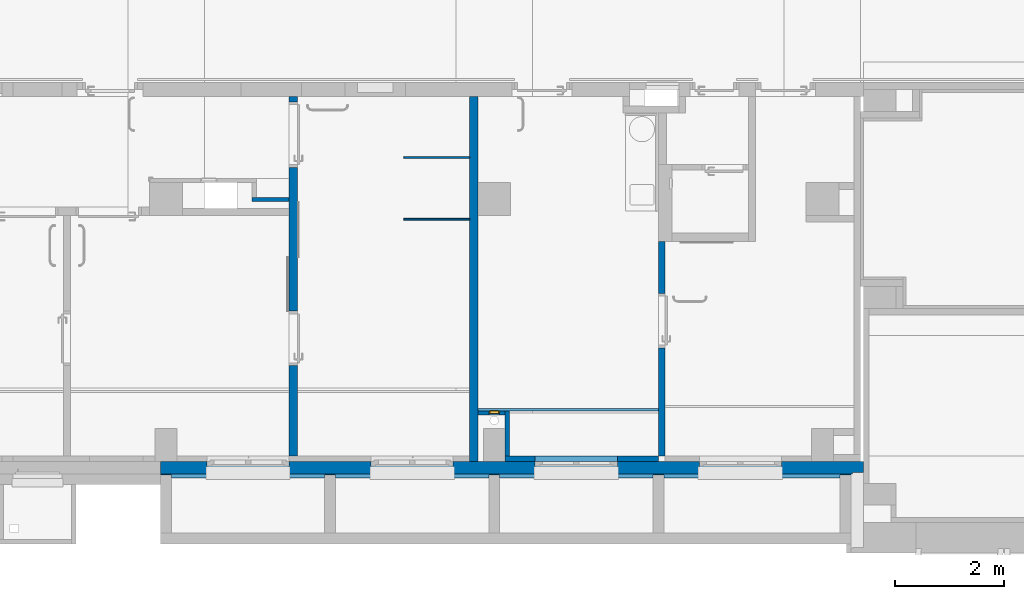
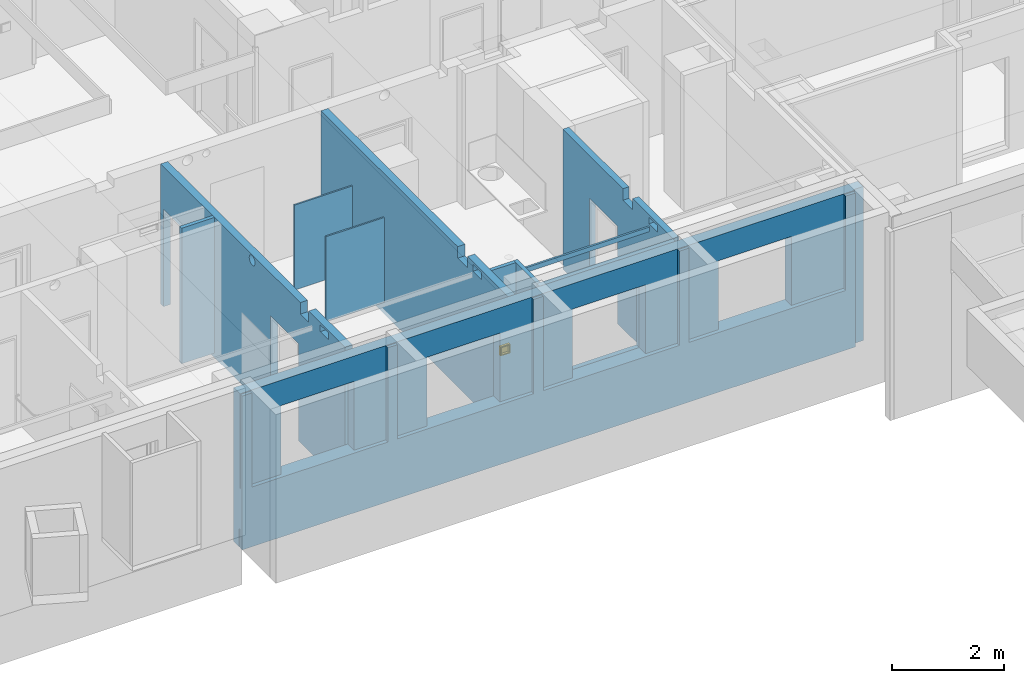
# One storey, part 13 of 84: 11 walls, 1 window, 16 openings.
"""IFC4 building model written with IfcOpenShell, lengths in metres."""

import ifcopenshell
import ifcopenshell.guid

model = None  # the IFC model being written
_history = None  # IfcOwnerHistory: only IFC2X3 demands one
_inside = {}  # id of a spatial element -> (the spatial element, [elements in it])
_under = {}  # id of a project, library or spatial element -> (it, [spatial elements below it])
_declared = {}  # id of a project -> (the project, [libraries it declares])
_typed = {}  # id of a type object -> (the type object, [elements of that type])
_made_of = {}  # id of a material, layer set ... -> (it, [elements and type objects made of it])


def new_model(schema):
    """Start an empty IFC model of exactly this schema.

    Asked for "IFC4X3", IfcOpenShell would pick the latest addendum, in which some entities
    have other attributes; the version numbers below select the first issue.
    IFC2X3 requires an IfcOwnerHistory on every rooted entity: one is made here for all.
    """
    global model, _history
    if schema == "IFC4X3":
        model = ifcopenshell.file(schema_version=(4, 3, 0, 0))
    else:
        model = ifcopenshell.file(schema=schema)
    _inside.clear()
    _under.clear()
    _declared.clear()
    _typed.clear()
    _made_of.clear()
    _history = None
    if model.schema == "IFC2X3":
        org = make("IfcOrganization", Name="unknown")
        user = make(
            "IfcPersonAndOrganization",
            ThePerson=make("IfcPerson", FamilyName="unknown"),
            TheOrganization=org,
        )
        app = make(
            "IfcApplication",
            ApplicationDeveloper=org,
            Version="unknown",
            ApplicationFullName="unknown",
            ApplicationIdentifier="unknown",
        )
        _history = make(
            "IfcOwnerHistory",
            OwningUser=user,
            OwningApplication=app,
            ChangeAction="ADDED",
            CreationDate=0,
        )
    return model


def make(cls, **values):
    """One entity of the class cls with the attributes given. An attribute that is None is left unset."""
    return model.create_entity(
        cls, **{name: value for name, value in values.items() if value is not None}
    )


def entity(cls, *values):
    """Any entity or typed value of the class cls, its attributes in the order of the schema. None: left unset."""
    e = model.create_entity(cls)
    for i, value in enumerate(values):
        if value is not None:
            e[i] = value
    return e


def rooted(cls, **values):
    """An entity with a GlobalId (a new one), such as an element, a storey or a relation."""
    return make(cls, GlobalId=ifcopenshell.guid.new(), OwnerHistory=_history, **values)


def si_unit(unit_type, name, prefix=None):
    """IfcSIUnit, for example si_unit("LENGTHUNIT", "METRE", prefix="MILLI")."""
    return make("IfcSIUnit", UnitType=unit_type, Prefix=prefix, Name=name)


def converted_unit(unit_type, name, factor, base, dimensions=None, offset=None):
    """IfcConversionBasedUnit, such as the inch: factor (a typed value) times the base unit."""
    return make(
        "IfcConversionBasedUnit"
        if offset is None
        else "IfcConversionBasedUnitWithOffset",
        ConversionOffset=offset,
        Dimensions=None
        if dimensions is None
        else entity("IfcDimensionalExponents", *dimensions),
        UnitType=unit_type,
        Name=name,
        ConversionFactor=make(
            "IfcMeasureWithUnit", ValueComponent=factor, UnitComponent=base
        ),
    )


def derived_unit(unit_type, elements):
    """IfcDerivedUnit: a product of units, each with its exponent."""
    return make(
        "IfcDerivedUnit",
        Elements=[
            make("IfcDerivedUnitElement", Unit=unit, Exponent=power)
            for unit, power in elements
        ],
        UnitType=unit_type,
    )


def assignment(units):
    """IfcUnitAssignment: the units of a project."""
    return None if units is None else make("IfcUnitAssignment", Units=units)


def point(xyz):
    """IfcCartesianPoint."""
    return None if xyz is None else make("IfcCartesianPoint", Coordinates=xyz)


def direction(xyz):
    """IfcDirection."""
    return None if xyz is None else make("IfcDirection", DirectionRatios=xyz)


def frame(location, z_axis=None, x_axis=None):
    """IfcAxis2Placement3D, a coordinate frame: its origin and axes. An axis left out is left unset."""
    return make(
        "IfcAxis2Placement3D",
        Location=point(location),
        Axis=direction(z_axis),
        RefDirection=direction(x_axis),
    )


def frame_2d(location, x_axis=None):
    """IfcAxis2Placement2D, a coordinate frame in the plane: its origin and x axis."""
    return make(
        "IfcAxis2Placement2D", Location=point(location), RefDirection=direction(x_axis)
    )


def origin():
    """The frame at (0, 0, 0) with its axes left unset."""
    return frame((0.0, 0.0, 0.0))


def origin_with_axes():
    """The frame at (0, 0, 0) with the z axis (0, 0, 1) and the x axis (1, 0, 0) written out."""
    return frame((0.0, 0.0, 0.0), z_axis=(0.0, 0.0, 1.0), x_axis=(1.0, 0.0, 0.0))


def place(relative_to, where):
    """IfcLocalPlacement: puts the frame where relative to a parent placement (None: the world)."""
    return make(
        "IfcLocalPlacement", PlacementRelTo=relative_to, RelativePlacement=where
    )


def context(
    kind, dimensions, precision=None, world=None, true_north=None, identifier=None
):
    """IfcGeometricRepresentationContext, for example the 3D "Model" context."""
    return make(
        "IfcGeometricRepresentationContext",
        ContextIdentifier=identifier,
        ContextType=kind,
        CoordinateSpaceDimension=dimensions,
        Precision=precision,
        WorldCoordinateSystem=world,
        TrueNorth=true_north,
    )


def subcontext(parent, identifier, kind, view, scale=None):
    """IfcGeometricRepresentationSubContext, for example "Body" below "Model"."""
    return make(
        "IfcGeometricRepresentationSubContext",
        ContextIdentifier=identifier,
        ContextType=kind,
        ParentContext=parent,
        TargetScale=scale,
        TargetView=view,
    )


def project(units=None, contexts=None):
    """IfcProject with its units and contexts."""
    return rooted(
        "IfcProject",
        Name="project",
        RepresentationContexts=contexts,
        UnitsInContext=assignment(units),
    )


def spatial(cls, under=None, at=None, **own):
    """A site, building, storey or space (cls), placed at a placement, below another one or the project."""
    s = rooted(cls, ObjectPlacement=at, **own)
    if under is not None:
        _under.setdefault(under.id(), (under, []))[1].append(s)
    return s


def polyline(points):
    """IfcPolyline through the points."""
    return make("IfcPolyline", Points=[point(p) for p in points])


def profile(cls, at=None, kind="AREA", **sizes):
    """A parametric profile (cls). Its sizes go by their IFC names, for example OverallWidth=200.0."""
    return make(cls, ProfileType=kind, Position=at, **sizes)


def rectangle(**sizes):
    """IfcRectangleProfileDef."""
    return profile("IfcRectangleProfileDef", **sizes)


def outline(outer, holes=None, kind="AREA"):
    """IfcArbitraryClosedProfileDef: a profile drawn as a closed curve; with holes, ...WithVoids."""
    if holes is None:
        return make("IfcArbitraryClosedProfileDef", ProfileType=kind, OuterCurve=outer)
    return make(
        "IfcArbitraryProfileDefWithVoids",
        ProfileType=kind,
        OuterCurve=outer,
        InnerCurves=holes,
    )


def extrude(swept, where, along, depth):
    """IfcExtrudedAreaSolid: the profile swept, set in the frame where, extruded along a direction by depth."""
    return make(
        "IfcExtrudedAreaSolid",
        SweptArea=swept,
        Position=where,
        ExtrudedDirection=direction(along),
        Depth=depth,
    )


def clip(a, b, op="DIFFERENCE"):
    """IfcBooleanClippingResult: the solid a cut by the half space b."""
    return make(
        "IfcBooleanClippingResult", Operator=op, FirstOperand=a, SecondOperand=b
    )


def bounded_halfspace(plane, agree, where, boundary):
    """IfcPolygonalBoundedHalfSpace: a half space limited to a polygon's prism."""
    return make(
        "IfcPolygonalBoundedHalfSpace",
        BaseSurface=make("IfcPlane", Position=plane),
        AgreementFlag=agree,
        Position=where,
        PolygonalBoundary=boundary,
    )


def faces_of(points, faces, orient=None, outer=None):
    """IfcFace entities. A face is a list of loops; a loop is a list of indices into points, from 0.

    orient and outer hold one flag for each loop. By default every Orientation is true, the
    first loop of a face is its IfcFaceOuterBound and the others are IfcFaceBound.
    """
    made = []
    for i, loops in enumerate(faces):
        bounds = []
        for j, loop in enumerate(loops):
            is_outer = j == 0 if outer is None else outer[i][j]
            bounds.append(
                make(
                    "IfcFaceOuterBound" if is_outer else "IfcFaceBound",
                    Bound=make("IfcPolyLoop", Polygon=[points[k] for k in loop]),
                    Orientation=True if orient is None else orient[i][j],
                )
            )
        made.append(make("IfcFace", Bounds=bounds))
    return made


def faceted_brep(points, faces, orient=None, outer=None, voids=None):
    """IfcFacetedBrep: a solid bounded by flat faces; with voids (closed shells), ...WithVoids."""
    shared = [point(p) for p in points]
    hull = make("IfcClosedShell", CfsFaces=faces_of(shared, faces, orient, outer))
    if voids is None:
        return make("IfcFacetedBrep", Outer=hull)
    return make(
        "IfcFacetedBrepWithVoids",
        Outer=hull,
        Voids=[
            make(cls, CfsFaces=faces_of(shared, fs, o, b)) for cls, fs, o, b in voids
        ],
    )


def shape(context_of_items, identifier, shape_type, items):
    """IfcShapeRepresentation: the items that make up one representation, for example the "Body"."""
    return make(
        "IfcShapeRepresentation",
        ContextOfItems=context_of_items,
        RepresentationIdentifier=identifier,
        RepresentationType=shape_type,
        Items=items,
    )


def source(mapping_origin, context_of_items, identifier, shape_type, items):
    """IfcRepresentationMap: a shape defined once, which mapped items show again and again."""
    return make(
        "IfcRepresentationMap",
        MappingOrigin=mapping_origin,
        MappedRepresentation=shape(context_of_items, identifier, shape_type, items),
    )


def transform(
    local_origin,
    x_axis=None,
    y_axis=None,
    z_axis=None,
    scale=None,
    scale2=None,
    scale3=None,
    uniform=True,
):
    """IfcCartesianTransformationOperator3D, or its non-uniform kind. x_axis, y_axis, z_axis: its Axis1, 2, 3."""
    if uniform:
        return make(
            "IfcCartesianTransformationOperator3D",
            Axis1=direction(x_axis),
            Axis2=direction(y_axis),
            LocalOrigin=point(local_origin),
            Scale=scale,
            Axis3=direction(z_axis),
        )
    return make(
        "IfcCartesianTransformationOperator3DnonUniform",
        Axis1=direction(x_axis),
        Axis2=direction(y_axis),
        LocalOrigin=point(local_origin),
        Scale=scale,
        Axis3=direction(z_axis),
        Scale2=scale2,
        Scale3=scale3,
    )


def mapped(mapping_source, mapping_target):
    """IfcMappedItem: shows the shape of a source again, moved by a transform."""
    return make(
        "IfcMappedItem", MappingSource=mapping_source, MappingTarget=mapping_target
    )


def material(Name=None, Category=None):
    """IfcMaterial."""
    return make("IfcMaterial", Name=Name, Category=Category)


def layer(
    of_material, thickness, ventilated=None, Name=None, Category=None, Priority=None
):
    """IfcMaterialLayer: one layer of a wall or slab, of a material (None: an air gap)."""
    return make(
        "IfcMaterialLayer",
        Material=of_material,
        LayerThickness=thickness,
        IsVentilated=ventilated,
        Name=Name,
        Category=Category,
        Priority=Priority,
    )


def layer_set(layers, Name=None):
    """IfcMaterialLayerSet."""
    return make("IfcMaterialLayerSet", MaterialLayers=layers, LayerSetName=Name)


def layer_usage(for_layer_set, set_direction, sense, offset, extent=None):
    """IfcMaterialLayerSetUsage: how a layer set lies in its element."""
    return make(
        "IfcMaterialLayerSetUsage",
        ForLayerSet=for_layer_set,
        LayerSetDirection=set_direction,
        DirectionSense=sense,
        OffsetFromReferenceLine=offset,
        ReferenceExtent=extent,
    )


def made_of(thing, what):
    """Note that an element or type object is made of a material, layer set ...; save() writes the relation."""
    if what is not None:
        _made_of.setdefault(what.id(), (what, []))[1].append(thing)
    return thing


def element(
    cls,
    number,
    at=None,
    inside=None,
    cuts=None,
    type_object=None,
    material=None,
    context=None,
    identifier="Body",
    shape_type=None,
    held_by="IfcProductDefinitionShape",
    body=None,
    shapes=None,
    **own,
):
    """One element of the class cls, such as IfcWall. Its Tag is "e" and its number.

    at: its placement. inside: the storey or other place that contains it. cuts: it is an
    opening in that element (IfcRelVoidsElement). A single representation is given by context,
    identifier, shape_type and body (its items); several are given by shapes. held_by: the class
    of the entity that holds the representations. save() writes the other relations.
    """
    e = rooted(cls, Tag="e%d" % number, ObjectPlacement=at, **own)
    if body is not None:
        shapes = [shape(context, identifier, shape_type, body)]
    if shapes is not None:
        e.Representation = make(held_by, Representations=shapes)
    if inside is not None:
        _inside.setdefault(inside.id(), (inside, []))[1].append(e)
    if cuts is not None:
        rooted(
            "IfcRelVoidsElement", RelatingBuildingElement=cuts, RelatedOpeningElement=e
        )
    if type_object is not None:
        _typed.setdefault(type_object.id(), (type_object, []))[1].append(e)
    return made_of(e, material)


def fill(opening, filler):
    """IfcRelFillsElement: the door or window that sits in an opening."""
    return rooted(
        "IfcRelFillsElement",
        RelatingOpeningElement=opening,
        RelatedBuildingElement=filler,
    )


def aggregate(whole, parts):
    """IfcRelAggregates: a whole, such as a stair, and the parts it consists of."""
    return rooted("IfcRelAggregates", RelatingObject=whole, RelatedObjects=parts)


def save(model, path):
    """Write the relations noted so far, then the file.

    IfcRelAggregates (storeys below a building ...), IfcRelContainedInSpatialStructure (elements
    in a storey), IfcRelDefinesByType, IfcRelAssociatesMaterial and IfcRelDeclares: one each for
    every whole, place, type object, material and project.
    """
    for whole, parts in _under.values():
        aggregate(whole, parts)
    for where, things in _inside.values():
        rooted(
            "IfcRelContainedInSpatialStructure",
            RelatedElements=things,
            RelatingStructure=where,
        )
    for kind, things in _typed.values():
        rooted("IfcRelDefinesByType", RelatedObjects=things, RelatingType=kind)
    for what, things in _made_of.values():
        rooted("IfcRelAssociatesMaterial", RelatedObjects=things, RelatingMaterial=what)
    for by, libraries in _declared.values():
        rooted("IfcRelDeclares", RelatingContext=by, RelatedDefinitions=libraries)
    model.write(path)


model = new_model("IFC4")

# Units and contexts
model_context = context("Model", 3, precision=1e-05, world=origin())
body_context = subcontext(model_context, "Body", "Model", "MODEL_VIEW")
ifc_project = project(units=[si_unit("LENGTHUNIT", "METRE"), si_unit("AREAUNIT", "SQUARE_METRE"), si_unit("VOLUMEUNIT", "CUBIC_METRE"), si_unit("MASSUNIT", "GRAM", prefix="KILO"), converted_unit("PLANEANGLEUNIT", "DEGREE", entity("IfcPlaneAngleMeasure", 0.0174532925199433), si_unit("PLANEANGLEUNIT", "RADIAN"), dimensions=[0, 0, 0, 0, 0, 0, 0]), derived_unit("THERMALTRANSMITTANCEUNIT", [(si_unit("POWERUNIT", "WATT"), 1), (si_unit("THERMODYNAMICTEMPERATUREUNIT", "KELVIN"), -1), (si_unit("LENGTHUNIT", "METRE"), -2)]), derived_unit("VOLUMETRICFLOWRATEUNIT", [(si_unit("LENGTHUNIT", "METRE"), 3), (converted_unit("TIMEUNIT", "hour", entity("IfcTimeMeasure", 3600.0), si_unit("TIMEUNIT", "SECOND"), dimensions=[0, 0, 1, 0, 0, 0, 0]), -1), (si_unit("LENGTHUNIT", "METRE"), -1)])], contexts=[model_context])

# Site, building, storey
site_placement = place(None, origin())
site = spatial("IfcSite", under=ifc_project, at=site_placement, Name="3. ASŘ", CompositionType="ELEMENT")
building_placement = place(site_placement, origin())
building = spatial("IfcBuilding", under=site, at=building_placement, Name="Pavilon C", CompositionType="ELEMENT")
storey_placement = place(building_placement, frame((0.0, 0.0, -3.3)))
storey = spatial("IfcBuildingStorey", under=building, at=storey_placement, Name="Půdorys 1.PP", CompositionType="ELEMENT", Elevation=-3.3)

# Wall, openings
ifc_material_1 = material(Name="ZELEZOBETONOVÁ KCE")
ifc_layer_1 = layer(ifc_material_1, 0.2)
ifc_material_2 = material(Name="LIGNOPOR")
ifc_layer_2 = layer(ifc_material_2, 0.0250000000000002)
ifc_material_3 = material(Name="PÓROBETONOVÉ ZDIVO")
ifc_layer_3 = layer(ifc_material_3, 0.0800000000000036)
ifc_layer_set_1 = layer_set([ifc_layer_1, ifc_layer_2, ifc_layer_3])
ifc_layer_usage_1 = layer_usage(ifc_layer_set_1, "AXIS2", "POSITIVE", 0.0)
wall_1_placement = place(storey_placement, frame((24.75, 0.599999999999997, -0.4), z_axis=(0.0, 0.0, 1.0), x_axis=(-1.0, 2.83111191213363e-16, 0.0)))
wall_1 = element("IfcWall", 1, at=wall_1_placement, inside=storey, material=ifc_layer_usage_1, Name="ZELEZOBETONOVÁ KCE", context=body_context, shape_type="Clipping", body=[
    clip(clip(extrude(outline(polyline([(-12.625, -3.57427878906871e-15), (-12.625, -0.0800000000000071), (-12.65, -0.0800000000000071), (-12.65, -0.105000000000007), (-12.85, -0.105000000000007), (-12.85, -0.305000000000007), (8.63489133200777e-17, -0.305000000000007), (1.01385950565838e-30, -3.5811353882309e-15), (-12.625, -3.57427878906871e-15)])), frame((12.85, 0.305000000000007, 0.0), z_axis=(0.0, 0.0, 1.0), x_axis=(1.0, 0.0, 0.0)), (0.0, 0.0, 1.0), 3.35), bounded_halfspace(frame((5.265, 0.215, 0.4), z_axis=(0.0, 0.0, 1.0), x_axis=(-1.0, -2.83111191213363e-16, 0.0)), True, origin_with_axes(), polyline([(0.225, 0.225), (0.2, 0.225), (0.2, 0.2), (12.85, 0.2), (12.85, 0.225), (0.225, 0.225)]))), bounded_halfspace(frame((6.66500000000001, 0.267000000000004, 1.3), z_axis=(0.0, 0.0, -1.0), x_axis=(-2.83111191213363e-16, 1.0, 0.0)), True, origin_with_axes(), polyline([(12.65, 0.245000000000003), (12.65, 0.305000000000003), (9.85, 0.305000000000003), (9.85, 0.245000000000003), (9.65000000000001, 0.245000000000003), (9.65000000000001, 0.305000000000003), (6.85, 0.305000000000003), (6.85, 0.245000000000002), (6.65, 0.245000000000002), (6.65, 0.305000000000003), (3.85, 0.305000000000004), (3.85, 0.245000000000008), (3.65, 0.245000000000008), (3.65, 0.305000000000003), (0.425, 0.305000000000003), (0.425, 0.245000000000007), (0.225, 0.245000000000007), (0.225, 0.225), (12.85, 0.225), (12.85, 0.245000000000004), (12.65, 0.245000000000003)]))),
])
opening_1_placement = place(wall_1_placement, frame((3.0, 0.2, 1.3), z_axis=(0.0, -1.0, 0.0), x_axis=(0.0, 0.0, 1.0)))
element("IfcOpeningElement", 2, at=opening_1_placement, cuts=wall_1, Name="Okenní otvor", ObjectType="Opening", context=body_context, shape_type="SweptSolid", body=[
    extrude(outline(polyline([(0.0, 1.5), (1.5, 1.5), (1.5, 0.0), (0.0, 0.0), (0.0, 1.5)])), origin_with_axes(), (0.0, 0.0, 1.0), 0.2),
    extrude(outline(polyline([(0.0, 1.5), (1.5, 1.5), (1.5, 0.0), (0.0, 0.0), (0.0, 1.5)])), frame((0.0, 7.57912251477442e-18, -0.0250000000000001), z_axis=(0.0, 0.0, 1.0), x_axis=(1.0, 0.0, 0.0)), (0.0, 0.0, 1.0), 0.0250000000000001),
    extrude(outline(polyline([(0.0, 1.5), (1.5, 1.5), (1.5, 0.0), (0.0, 0.0), (0.0, 1.5)])), frame((0.0, 3.18323145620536e-17, -0.105000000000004), z_axis=(0.0, 0.0, 1.0), x_axis=(1.0, 0.0, 0.0)), (0.0, 0.0, 1.0), 0.0800000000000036),
])
opening_2_placement = place(wall_1_placement, frame((6.0, 0.200000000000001, 1.3), z_axis=(0.0, -1.0, 0.0), x_axis=(0.0, 0.0, 1.0)))
element("IfcOpeningElement", 3, at=opening_2_placement, cuts=wall_1, Name="Okenní otvor", ObjectType="Opening", context=body_context, shape_type="SweptSolid", body=[
    extrude(outline(polyline([(0.0, 1.5), (1.5, 1.5), (1.5, 0.0), (0.0, 0.0), (0.0, 1.5)])), origin_with_axes(), (0.0, 0.0, 1.0), 0.2),
    extrude(outline(polyline([(0.0, 1.5), (1.5, 1.5), (1.5, 0.0), (0.0, 0.0), (0.0, 1.5)])), frame((0.0, 7.57912251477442e-18, -0.0250000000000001), z_axis=(0.0, 0.0, 1.0), x_axis=(1.0, 0.0, 0.0)), (0.0, 0.0, 1.0), 0.0250000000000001),
    extrude(outline(polyline([(0.0, 1.5), (1.5, 1.5), (1.5, 0.0), (0.0, 0.0), (0.0, 1.5)])), frame((0.0, 3.18323145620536e-17, -0.105000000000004), z_axis=(0.0, 0.0, 1.0), x_axis=(1.0, 0.0, 0.0)), (0.0, 0.0, 1.0), 0.0800000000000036),
])
opening_3_placement = place(wall_1_placement, frame((9.0, 0.200000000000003, 1.3), z_axis=(0.0, -1.0, 0.0), x_axis=(0.0, 0.0, 1.0)))
element("IfcOpeningElement", 4, at=opening_3_placement, cuts=wall_1, Name="Okenní otvor", ObjectType="Opening", context=body_context, shape_type="SweptSolid", body=[
    extrude(outline(polyline([(0.0, 1.5), (1.5, 1.5), (1.5, 0.0), (0.0, 0.0), (0.0, 1.5)])), origin_with_axes(), (0.0, 0.0, 1.0), 0.2),
    extrude(outline(polyline([(0.0, 1.5), (1.5, 1.5), (1.5, 0.0), (0.0, 0.0), (0.0, 1.5)])), frame((0.0, 7.57912251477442e-18, -0.0250000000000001), z_axis=(0.0, 0.0, 1.0), x_axis=(1.0, 0.0, 0.0)), (0.0, 0.0, 1.0), 0.0250000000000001),
    extrude(outline(polyline([(0.0, 1.5), (1.5, 1.5), (1.5, 0.0), (0.0, 0.0), (0.0, 1.5)])), frame((0.0, 3.18323145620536e-17, -0.105000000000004), z_axis=(0.0, 0.0, 1.0), x_axis=(1.0, 0.0, 0.0)), (0.0, 0.0, 1.0), 0.0800000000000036),
])
opening_4_placement = place(wall_1_placement, frame((12.0, 0.199999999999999, 1.3), z_axis=(0.0, -1.0, 0.0), x_axis=(0.0, 0.0, 1.0)))
element("IfcOpeningElement", 5, at=opening_4_placement, cuts=wall_1, Name="Okenní otvor", ObjectType="Opening", context=body_context, shape_type="SweptSolid", body=[
    extrude(outline(polyline([(0.0, 1.5), (1.5, 1.5), (1.5, 0.0), (0.0, 0.0), (0.0, 1.5)])), origin_with_axes(), (0.0, 0.0, 1.0), 0.2),
    extrude(outline(polyline([(0.0, 1.5), (1.5, 1.5), (1.5, 0.0), (0.0, 0.0), (0.0, 1.5)])), frame((0.0, 7.57912251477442e-18, -0.0250000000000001), z_axis=(0.0, 0.0, 1.0), x_axis=(1.0, 0.0, 0.0)), (0.0, 0.0, 1.0), 0.0250000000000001),
    extrude(outline(polyline([(0.0, 1.5), (1.5, 1.5), (1.5, 0.0), (0.0, 0.0), (0.0, 1.5)])), frame((0.0, 3.18323145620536e-17, -0.105000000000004), z_axis=(0.0, 0.0, 1.0), x_axis=(1.0, 0.0, 0.0)), (0.0, 0.0, 1.0), 0.0800000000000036),
])

# Wall, opening
ifc_material_4 = material(Name="PÓROBETONOVÉ ZDIVO")
ifc_layer_4 = layer(ifc_material_4, 0.1)
ifc_layer_set_2 = layer_set([ifc_layer_4])
ifc_layer_usage_2 = layer_usage(ifc_layer_set_2, "AXIS2", "POSITIVE", 0.0)
wall_2_placement = place(storey_placement, frame((18.2, 0.6, -0.1)))
wall_2 = element("IfcWall", 6, at=wall_2_placement, inside=storey, material=ifc_layer_usage_2, Name="PÓROBETONOVÉ ZDIVO", context=body_context, shape_type="SweptSolid", body=[
    extrude(rectangle(XDim=2.8, YDim=0.1, at=frame_2d((1.4, 0.05), x_axis=(1.0, 0.0))), origin_with_axes(), (0.0, 0.0, 1.0), 3.05),
])
opening_5_placement = place(wall_2_placement, frame((2.05, 0.1, 1.0), z_axis=(0.0, -1.0, 0.0), x_axis=(0.0, 0.0, 1.0)))
element("IfcOpeningElement", 7, at=opening_5_placement, cuts=wall_2, Name="Okenní otvor", ObjectType="Opening", context=body_context, shape_type="SweptSolid", body=[
    extrude(outline(polyline([(0.0, 1.5), (1.5, 1.5), (1.5, 0.0), (0.0, 0.0), (0.0, 1.5)])), origin_with_axes(), (0.0, 0.0, 1.0), 0.1),
])

# Walls
ifc_material_5 = material()
ifc_layer_5 = layer(ifc_material_5, 0.032)
ifc_layer_set_3 = layer_set([ifc_layer_5])
ifc_layer_usage_3 = layer_usage(ifc_layer_set_3, "AXIS2", "POSITIVE", -0.016)
wall_3_placement = place(storey_placement, frame((17.55, 6.175, 0.15), z_axis=(0.0, 0.0, 1.0), x_axis=(-1.0, 0.0, 0.0)))
element("IfcWall", 8, at=wall_3_placement, inside=storey, material=ifc_layer_usage_3, Name="SANITÁRNÍ PŘÍČKA", context=body_context, shape_type="SweptSolid", body=[
    extrude(rectangle(XDim=1.2, YDim=0.032, at=frame_2d((0.6, 0.016), x_axis=(1.0, 0.0))), origin_with_axes(), (0.0, 0.0, 1.0), 1.85),
])
ifc_material_6 = material()
ifc_layer_6 = layer(ifc_material_6, 0.032)
ifc_layer_set_4 = layer_set([ifc_layer_6])
ifc_layer_usage_4 = layer_usage(ifc_layer_set_4, "AXIS2", "POSITIVE", -0.016)
wall_4_placement = place(storey_placement, frame((17.55, 5.043, 0.15), z_axis=(0.0, 0.0, 1.0), x_axis=(-1.0, 0.0, 0.0)))
element("IfcWall", 9, at=wall_4_placement, inside=storey, material=ifc_layer_usage_4, Name="SANITÁRNÍ PŘÍČKA", context=body_context, shape_type="SweptSolid", body=[
    extrude(rectangle(XDim=1.2, YDim=0.032, at=frame_2d((0.6, 0.016), x_axis=(1.0, 0.0))), origin_with_axes(), (0.0, 0.0, 1.0), 1.85),
])
ifc_material_7 = material(Name="SDK SVISLA CAST PODHLEDU")
ifc_layer_7 = layer(ifc_material_7, 0.0400000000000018)
ifc_layer_set_5 = layer_set([ifc_layer_7])
ifc_layer_usage_5 = layer_usage(ifc_layer_set_5, "AXIS2", "POSITIVE", 0.0)
wall_5_placement = place(storey_placement, frame((17.7, 1.525, 2.6)))
element("IfcWall", 10, at=wall_5_placement, inside=storey, material=ifc_layer_usage_5, Name="SDK SVISLA CAST PODHLEDU", context=body_context, shape_type="SweptSolid", body=[
    extrude(rectangle(XDim=3.3, YDim=0.0400000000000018, at=frame_2d((1.65, 0.0200000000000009), x_axis=(1.0, 0.0))), origin_with_axes(), (0.0, 0.0, 1.0), 0.1),
])

# Wall, openings
ifc_material_8 = material(Name="SDK BARYT - 1 KCE + DVOJITÉ OPLÁ")
ifc_layer_8 = layer(ifc_material_8, 0.15)
ifc_layer_set_6 = layer_set([ifc_layer_8])
ifc_layer_usage_6 = layer_usage(ifc_layer_set_6, "AXIS2", "POSITIVE", 0.0)
wall_6_placement = place(storey_placement, frame((14.25, 7.275, -0.1), z_axis=(0.0, 0.0, 1.0), x_axis=(0.0, -1.0, 0.0)))
wall_6 = element("IfcWall", 11, at=wall_6_placement, inside=storey, material=ifc_layer_usage_6, Name="SDK BARYT - 1 KCE + DVOJITÉ OPLÁ", context=body_context, shape_type="SweptSolid", body=[
    extrude(rectangle(XDim=6.575, YDim=0.15, at=frame_2d((3.2875, 0.075), x_axis=(1.0, 0.0))), origin_with_axes(), (0.0, 0.0, 1.0), 3.05),
])
opening_6_placement = place(wall_6_placement, frame((3.925, 0.0, 0.0), z_axis=(0.0, 1.0, 0.0), x_axis=(0.0, 0.0, 1.0)))
element("IfcOpeningElement", 12, at=opening_6_placement, cuts=wall_6, Name="Dveřní otvor", ObjectType="Opening", context=body_context, shape_type="SweptSolid", body=[
    extrude(outline(polyline([(0.0, 1.0), (2.12, 1.0), (2.12, 0.0), (0.0, 0.0), (0.0, 1.0)])), origin_with_axes(), (0.0, 0.0, 1.0), 0.15),
])
opening_7_placement = place(wall_6_placement, frame((0.1, 0.0, 0.0), z_axis=(0.0, 1.0, 0.0), x_axis=(0.0, 0.0, 1.0)))
element("IfcOpeningElement", 13, at=opening_7_placement, cuts=wall_6, Name="Dveřní otvor", ObjectType="Opening", context=body_context, shape_type="SweptSolid", body=[
    extrude(outline(polyline([(0.0, 1.2), (2.12, 1.2), (2.12, 0.0), (0.0, 0.0), (0.0, 1.2)])), origin_with_axes(), (0.0, 0.0, 1.0), 0.15),
])
opening_8_placement = place(wall_6_placement, frame((5.69218911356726, 0.0, 2.85), z_axis=(0.0, 1.0, 0.0), x_axis=(0.0, 0.0, 1.0)))
element("IfcOpeningElement", 14, at=opening_8_placement, cuts=wall_6, Name="UT", ObjectType="Opening", context=body_context, shape_type="SweptSolid", body=[
    extrude(outline(polyline([(0.0, 0.3), (0.15, 0.3), (0.15, 0.0), (0.0, 0.0), (0.0, 0.3)])), origin_with_axes(), (0.0, 0.0, 1.0), 0.15),
])
opening_9_placement = place(wall_6_placement, frame((4.98218911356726, 0.0, 2.8), z_axis=(0.0, 1.0, 0.0), x_axis=(0.0, 0.0, 1.0)))
element("IfcOpeningElement", 15, at=opening_9_placement, cuts=wall_6, Name="VZT", ObjectType="Opening", context=body_context, shape_type="SweptSolid", body=[
    extrude(outline(polyline([(0.0, 0.3), (0.25, 0.3), (0.25, 0.0), (0.0, 0.0), (0.0, 0.3)])), origin_with_axes(), (0.0, 0.0, 1.0), 0.15),
])
opening_10_placement = place(wall_6_placement, frame((3.37083752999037, 0.15, 2.825), z_axis=(0.0, -1.0, 0.0), x_axis=(0.0, 0.0, 1.0)))
element("IfcOpeningElement", 16, at=opening_10_placement, cuts=wall_6, Name="VZT", ObjectType="Opening", context=body_context, shape_type="SweptSolid", body=[
    extrude(outline(polyline([(0.105, 0.0), (0.0940245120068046, 0.000575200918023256), (0.0831692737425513, 0.00229450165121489), (0.0725532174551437, 0.00513906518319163), (0.0622926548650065, 0.0090777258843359), (0.052500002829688, 0.0140673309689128), (0.04328255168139, 0.0200532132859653), (0.0347412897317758, 0.0269697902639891), (0.0269697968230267, 0.0347412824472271), (0.0200532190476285, 0.043282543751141), (0.0140673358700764, 0.0524999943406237), (0.00907772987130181, 0.0622926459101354), (0.00513906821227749, 0.0725532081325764), (0.00229450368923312, 0.0831692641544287), (0.000575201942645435, 0.0940245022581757), (0.0, 0.104999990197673), (0.00057519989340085, 0.115975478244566), (0.00229449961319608, 0.126830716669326), (0.00513906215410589, 0.137446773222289), (0.00907772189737, 0.147707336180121), (0.0140673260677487, 0.157499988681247), (0.0200532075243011, 0.166717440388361), (0.0269697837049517, 0.175258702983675), (0.0347412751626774, 0.183030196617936), (0.0432825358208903, 0.189946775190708), (0.052499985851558, 0.19593265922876), (0.0622926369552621, 0.200922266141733), (0.0725531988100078, 0.204860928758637), (0.0831692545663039, 0.207705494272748), (0.0940244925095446, 0.209424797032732), (0.104999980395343, 0.21), (0.115975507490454, 0.209424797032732), (0.126830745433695, 0.207705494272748), (0.137446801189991, 0.204860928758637), (0.147707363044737, 0.200922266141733), (0.157500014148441, 0.19593265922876), (0.166717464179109, 0.189946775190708), (0.175258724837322, 0.183030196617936), (0.183030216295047, 0.175258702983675), (0.189946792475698, 0.166717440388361), (0.19593267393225, 0.157499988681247), (0.200922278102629, 0.147707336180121), (0.204860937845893, 0.137446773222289), (0.207705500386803, 0.126830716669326), (0.209424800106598, 0.115975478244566), (0.209999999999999, 0.104999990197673), (0.209424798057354, 0.0940245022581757), (0.207705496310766, 0.0831692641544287), (0.204860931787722, 0.0725532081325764), (0.200922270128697, 0.0622926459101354), (0.195932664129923, 0.0524999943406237), (0.18994678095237, 0.043282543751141), (0.183030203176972, 0.0347412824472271), (0.175258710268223, 0.0269697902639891), (0.166717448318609, 0.0200532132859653), (0.157499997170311, 0.0140673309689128), (0.147707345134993, 0.0090777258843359), (0.137446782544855, 0.00513906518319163), (0.126830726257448, 0.00229450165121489), (0.115975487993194, 0.000575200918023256), (0.105, 0.0)])), origin_with_axes(), (0.0, 0.0, 1.0), 0.15),
])

ifc_material_9 = material(Name="SDK BARYT - 1 KCE + DVOJITÉ OPLÁ")
ifc_layer_9 = layer(ifc_material_9, 0.15)
ifc_layer_set_7 = layer_set([ifc_layer_9])
ifc_layer_usage_7 = layer_usage(ifc_layer_set_7, "AXIS2", "POSITIVE", 0.0)
wall_7_placement = place(storey_placement, frame((17.7, 0.599999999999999, -0.1), z_axis=(0.0, 0.0, 1.0), x_axis=(0.0, 1.0, 0.0)))
wall_7 = element("IfcWall", 17, at=wall_7_placement, inside=storey, material=ifc_layer_usage_7, Name="SDK BARYT - 1 KCE + DVOJITÉ OPLÁ", context=body_context, shape_type="SweptSolid", body=[
    extrude(rectangle(XDim=6.675, YDim=0.15, at=frame_2d((3.3375, 0.075), x_axis=(1.0, 0.0))), origin_with_axes(), (0.0, 0.0, 1.0), 3.05),
])
opening_11_placement = place(wall_7_placement, frame((1.24681088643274, 0.15, 2.85), z_axis=(0.0, -1.0, 0.0), x_axis=(0.0, 0.0, 1.0)))
element("IfcOpeningElement", 18, at=opening_11_placement, cuts=wall_7, Name="UT", ObjectType="Opening", context=body_context, shape_type="SweptSolid", body=[
    extrude(outline(polyline([(0.0, 0.3), (0.15, 0.3), (0.15, 0.0), (0.0, 0.0), (0.0, 0.3)])), origin_with_axes(), (0.0, 0.0, 1.0), 0.15),
])
opening_12_placement = place(wall_7_placement, frame((1.79581088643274, 0.15, 2.8), z_axis=(0.0, -1.0, 0.0), x_axis=(0.0, 0.0, 1.0)))
element("IfcOpeningElement", 19, at=opening_12_placement, cuts=wall_7, Name="VZT", ObjectType="Opening", context=body_context, shape_type="SweptSolid", body=[
    extrude(outline(polyline([(0.0, 0.35), (0.25, 0.35), (0.25, 0.0), (0.0, 0.0), (0.0, 0.35)])), origin_with_axes(), (0.0, 0.0, 1.0), 0.15),
])

ifc_material_10 = material(Name="SDK - 1 KCE + DVOJITÉ OPLÁŠTĚNÍ")
ifc_layer_10 = layer(ifc_material_10, 0.125)
ifc_layer_set_8 = layer_set([ifc_layer_10])
ifc_layer_usage_8 = layer_usage(ifc_layer_set_8, "AXIS2", "POSITIVE", 0.0)
wall_8_placement = place(storey_placement, frame((21.125, 0.7, -0.1), z_axis=(0.0, 0.0, 1.0), x_axis=(0.0, 1.0, 0.0)))
wall_8 = element("IfcWall", 20, at=wall_8_placement, inside=storey, material=ifc_layer_usage_8, Name="SDK - 1 KCE + DVOJITÉ OPLÁŠTĚNÍ", context=body_context, shape_type="SweptSolid", body=[
    extrude(rectangle(XDim=3.925, YDim=0.125, at=frame_2d((1.9625, 0.0625), x_axis=(1.0, 0.0))), origin_with_axes(), (0.0, 0.0, 1.0), 3.05),
])
opening_13_placement = place(wall_8_placement, frame((1.975, 0.0, 0.0), z_axis=(0.0, 1.0, 0.0), x_axis=(0.0, 0.0, 1.0)))
element("IfcOpeningElement", 21, at=opening_13_placement, cuts=wall_8, Name="Dveřní otvor", ObjectType="Opening", context=body_context, shape_type="SweptSolid", body=[
    extrude(outline(polyline([(0.0, 1.0), (2.12, 1.0), (2.12, 0.0), (0.0, 0.0), (0.0, 1.0)])), origin_with_axes(), (0.0, 0.0, 1.0), 0.125),
])
opening_14_placement = place(wall_8_placement, frame((0.854958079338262, 0.125, 2.85), z_axis=(0.0, -1.0, 0.0), x_axis=(0.0, 0.0, 1.0)))
element("IfcOpeningElement", 22, at=opening_14_placement, cuts=wall_8, Name="UT", ObjectType="Opening", context=body_context, shape_type="SweptSolid", body=[
    extrude(outline(polyline([(0.0, 0.3), (0.15, 0.3), (0.15, 0.0), (0.0, 0.0), (0.0, 0.3)])), origin_with_axes(), (0.0, 0.0, 1.0), 0.125),
])
opening_15_placement = place(wall_8_placement, frame((1.78081088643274, 0.125, 2.8), z_axis=(0.0, -1.0, 0.0), x_axis=(0.0, 0.0, 1.0)))
element("IfcOpeningElement", 23, at=opening_15_placement, cuts=wall_8, Name="VZT", ObjectType="Opening", context=body_context, shape_type="SweptSolid", body=[
    extrude(outline(polyline([(0.0, 0.35), (0.25, 0.35), (0.25, 0.0), (0.0, 0.0), (0.0, 0.35)])), origin_with_axes(), (0.0, 0.0, 1.0), 0.125),
])

# Wall
ifc_material_11 = material(Name="SDK ŠACHTOVÁ STĚNA/SDK OPL. S PO")
ifc_layer_11 = layer(ifc_material_11, 0.075)
ifc_layer_set_9 = layer_set([ifc_layer_11])
ifc_layer_usage_9 = layer_usage(ifc_layer_set_9, "AXIS2", "POSITIVE", 0.0)
wall_9_placement = place(storey_placement, frame((18.2, 1.525, 0.0), z_axis=(0.0, 0.0, 1.0), x_axis=(0.0, -1.0, 0.0)))
element("IfcWall", 24, at=wall_9_placement, inside=storey, material=ifc_layer_usage_9, Name="SDK ŠACHTOVÁ STĚNA/SDK OPL. S PO", context=body_context, shape_type="SweptSolid", body=[
    extrude(rectangle(XDim=0.824999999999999, YDim=0.075, at=frame_2d((0.4125, 0.0375), x_axis=(1.0, 0.0))), origin_with_axes(), (0.0, 0.0, 1.0), 2.95),
])

# Wall, opening, window
ifc_material_12 = material(Name="SDK ŠACHTOVÁ STĚNA/SDK OPL. S PO")
ifc_layer_12 = layer(ifc_material_12, 0.0749999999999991)
ifc_layer_set_10 = layer_set([ifc_layer_12])
ifc_layer_usage_10 = layer_usage(ifc_layer_set_10, "AXIS2", "POSITIVE", 0.0)
wall_10_placement = place(storey_placement, frame((17.7, 1.45, 0.0)))
wall_10 = element("IfcWall", 25, at=wall_10_placement, inside=storey, material=ifc_layer_usage_10, Name="SDK ŠACHTOVÁ STĚNA/SDK OPL. S PO", context=body_context, shape_type="SweptSolid", body=[
    extrude(rectangle(XDim=0.500000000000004, YDim=0.0749999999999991, at=frame_2d((0.250000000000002, 0.0374999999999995), x_axis=(1.0, 0.0))), origin_with_axes(), (0.0, 0.0, 1.0), 2.95),
])
opening_16_placement = place(wall_10_placement, frame((0.4, 0.0749999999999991, 1.0), z_axis=(0.0, -1.0, 0.0), x_axis=(0.0, 0.0, 1.0)))
opening_16 = element("IfcOpeningElement", 26, at=opening_16_placement, cuts=wall_10, Name="Okenní otvor", ObjectType="Opening", context=body_context, shape_type="SweptSolid", body=[
    extrude(outline(polyline([(0.0, 0.2), (0.2, 0.2), (0.2, 0.0), (0.0, 0.0), (0.0, 0.2)])), origin_with_axes(), (0.0, 0.0, 1.0), 0.0749999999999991),
])
shared_shape = source(origin_with_axes(), body_context, "Body", "Brep", [
    faceted_brep([(0.0, 0.06, 0.2), (0.0, 0.06, 4.91096680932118e-19), (0.02, 0.06, 4.91096680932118e-19), (0.02, 0.06, 0.2), (0.0, 0.01, 6.61433067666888e-18), (0.0, 0.01, 0.2), (0.02, 0.01, 0.2), (0.02, 0.01, 6.61433067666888e-18)], [[[0, 1, 2, 3]], [[4, 5, 6, 7]], [[1, 0, 5, 4]], [[2, 1, 4, 7]], [[3, 2, 7, 6]], [[0, 3, 6, 5]]], orient=[[False], [False], [False], [False], [False], [False]]),
    faceted_brep([(0.18, 0.06, 0.2), (0.18, 0.06, 4.91096680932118e-19), (0.2, 0.06, 4.91096680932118e-19), (0.2, 0.06, 0.2), (0.18, 0.01, 6.61433067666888e-18), (0.18, 0.01, 0.2), (0.2, 0.01, 0.2), (0.2, 0.01, 6.61433067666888e-18)], [[[0, 1, 2, 3]], [[4, 5, 6, 7]], [[1, 0, 5, 4]], [[2, 1, 4, 7]], [[3, 2, 7, 6]], [[0, 3, 6, 5]]], orient=[[False], [False], [False], [False], [False], [False]]),
    faceted_brep([(0.02, 0.06, 0.02), (0.02, 0.06, 4.91096680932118e-19), (0.18, 0.06, 4.91096680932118e-19), (0.18, 0.06, 0.02), (0.02, 0.01, 6.61433067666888e-18), (0.02, 0.01, 0.02), (0.18, 0.01, 0.02), (0.18, 0.01, 6.61433067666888e-18)], [[[0, 1, 2, 3]], [[4, 5, 6, 7]], [[1, 0, 5, 4]], [[2, 1, 4, 7]], [[3, 2, 7, 6]], [[0, 3, 6, 5]]], orient=[[False], [False], [False], [False], [False], [False]]),
    faceted_brep([(0.02, 0.06, 0.2), (0.02, 0.06, 0.18), (0.18, 0.06, 0.18), (0.18, 0.06, 0.2), (0.02, 0.01, 0.18), (0.02, 0.01, 0.2), (0.18, 0.01, 0.2), (0.18, 0.01, 0.18)], [[[0, 1, 2, 3]], [[4, 5, 6, 7]], [[1, 0, 5, 4]], [[2, 1, 4, 7]], [[3, 2, 7, 6]], [[0, 3, 6, 5]]], orient=[[False], [False], [False], [False], [False], [False]]),
    faceted_brep([(0.02, 0.01, 0.18), (0.02, 0.01, 0.02), (0.18, 0.01, 0.02), (0.18, 0.01, 0.18), (0.02, 0.0, 0.02), (0.02, 1.95399252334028e-17, 0.18), (0.18, 1.95399252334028e-17, 0.18), (0.18, 0.0, 0.02)], [[[0, 1, 2, 3]], [[4, 5, 6, 7]], [[1, 0, 5, 4]], [[2, 1, 4, 7]], [[3, 2, 7, 6]], [[0, 3, 6, 5]]], orient=[[False], [False], [False], [False], [False], [False]]),
])
window_placement = place(opening_16_placement, frame((0.0, 0.2, -0.01), z_axis=(1.0, 0.0, 0.0), x_axis=(0.0, -1.0, 1.22464679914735e-16)))
window = element("IfcWindow", 27, at=window_placement, inside=storey, OverallHeight=0.2, OverallWidth=0.2, PartitioningType="USERDEFINED", PredefinedType="WINDOW", context=body_context, shape_type="MappedRepresentation", body=[
    mapped(shared_shape, transform((0.0, 0.0, 0.0), x_axis=(1.0, 0.0, 0.0), y_axis=(0.0, -1.0, 0.0), z_axis=(0.0, 0.0, 1.0), scale=1.0)),
])
fill(opening_16, window)

# Wall
ifc_material_13 = material(Name="SDK ŠACHTOVÁ STĚNA/SDK OPL. S PO")
ifc_layer_13 = layer(ifc_material_13, 0.075)
ifc_layer_set_11 = layer_set([ifc_layer_13])
ifc_layer_usage_11 = layer_usage(ifc_layer_set_11, "AXIS2", "POSITIVE", 0.0)
wall_11_placement = place(storey_placement, frame((14.25, 5.425, 0.0), z_axis=(0.0, 0.0, 1.0), x_axis=(-1.0, 0.0, 0.0)))
element("IfcWall", 28, at=wall_11_placement, inside=storey, material=ifc_layer_usage_11, Name="SDK ŠACHTOVÁ STĚNA/SDK OPL. S PO", context=body_context, shape_type="SweptSolid", body=[
    extrude(rectangle(XDim=0.675000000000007, YDim=0.075, at=frame_2d((0.337500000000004, 0.0375), x_axis=(1.0, 0.0))), origin_with_axes(), (0.0, 0.0, 1.0), 2.95),
])

save(model, "model.ifc")
